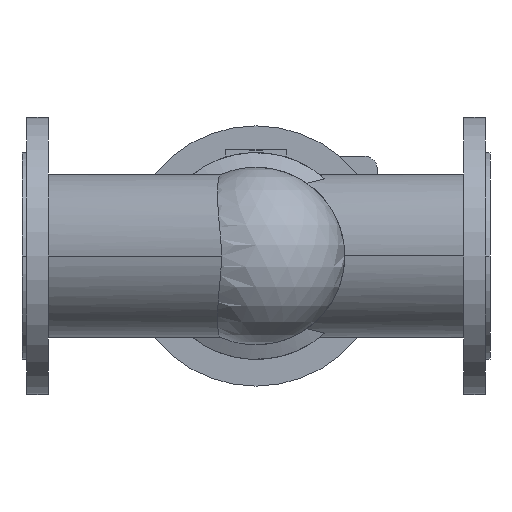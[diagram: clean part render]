
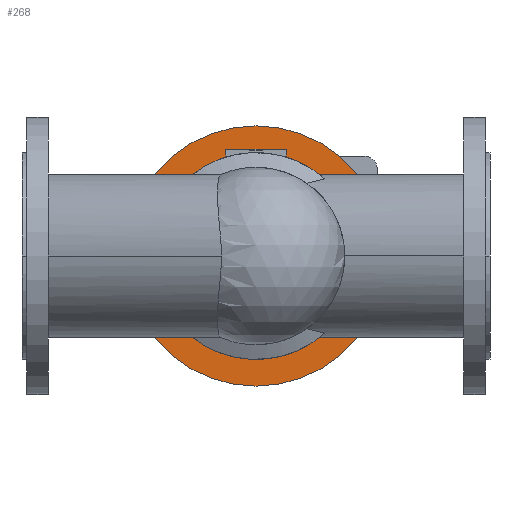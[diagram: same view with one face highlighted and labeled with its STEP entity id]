
A CAD part, front view. The second image highlights one B-rep face of the part: STEP entity #268.
In plain terms, the highlighted planar face has unit normal (0, -1, 0).
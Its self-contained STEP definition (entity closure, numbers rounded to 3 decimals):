
#268 = ADVANCED_FACE( '', ( #684, #685 ), #686, .T. );
#684 = FACE_BOUND( '', #1181, .T. );
#685 = FACE_OUTER_BOUND( '', #1182, .T. );
#686 = PLANE( '', #1183 );
#1181 = EDGE_LOOP( '', ( #2487, #2488 ) );
#1182 = EDGE_LOOP( '', ( #2489, #2490 ) );
#1183 = AXIS2_PLACEMENT_3D( '', #2491, #2492, #2493 );
#2487 = ORIENTED_EDGE( '', *, *, #3063, .F. );
#2488 = ORIENTED_EDGE( '', *, *, #3413, .F. );
#2489 = ORIENTED_EDGE( '', *, *, #3061, .T. );
#2490 = ORIENTED_EDGE( '', *, *, #3415, .T. );
#2491 = CARTESIAN_POINT( '', ( 120.25, 143.2, 0. ) );
#2492 = DIRECTION( '', ( 0., -1., 0. ) );
#2493 = DIRECTION( '', ( -1., 0., 0. ) );
#3061 = EDGE_CURVE( '', #3600, #3604, #3606, .T. );
#3063 = EDGE_CURVE( '', #3607, #3610, #3611, .T. );
#3413 = EDGE_CURVE( '', #3610, #3607, #4190, .T. );
#3415 = EDGE_CURVE( '', #3604, #3600, #4192, .T. );
#3600 = VERTEX_POINT( '', #4564 );
#3604 = VERTEX_POINT( '', #4569 );
#3606 = CIRCLE( '', #4572, 133.5 );
#3607 = VERTEX_POINT( '', #4573 );
#3610 = VERTEX_POINT( '', #4577 );
#3611 = CIRCLE( '', #4578, 106. );
#4190 = CIRCLE( '', #5828, 106. );
#4192 = CIRCLE( '', #5830, 133.5 );
#4564 = CARTESIAN_POINT( '', ( 106.5, 143.2, 0. ) );
#4569 = CARTESIAN_POINT( '', ( 373.5, 143.2, 0. ) );
#4572 = AXIS2_PLACEMENT_3D( '', #6224, #6225, #6226 );
#4573 = CARTESIAN_POINT( '', ( 134., 143.2, 0. ) );
#4577 = CARTESIAN_POINT( '', ( 346., 143.2, 0. ) );
#4578 = AXIS2_PLACEMENT_3D( '', #6228, #6229, #6230 );
#5828 = AXIS2_PLACEMENT_3D( '', #6900, #6901, #6902 );
#5830 = AXIS2_PLACEMENT_3D( '', #6906, #6907, #6908 );
#6224 = CARTESIAN_POINT( '', ( 240., 143.2, 0. ) );
#6225 = DIRECTION( '', ( 0., -1., 0. ) );
#6226 = DIRECTION( '', ( -1., 0., 0. ) );
#6228 = CARTESIAN_POINT( '', ( 240., 143.2, 0. ) );
#6229 = DIRECTION( '', ( 0., -1., 0. ) );
#6230 = DIRECTION( '', ( -1., 0., 0. ) );
#6900 = CARTESIAN_POINT( '', ( 240., 143.2, 0. ) );
#6901 = DIRECTION( '', ( 0., -1., 0. ) );
#6902 = DIRECTION( '', ( -1., 0., 0. ) );
#6906 = CARTESIAN_POINT( '', ( 240., 143.2, 0. ) );
#6907 = DIRECTION( '', ( 0., -1., 0. ) );
#6908 = DIRECTION( '', ( -1., 0., 0. ) );
